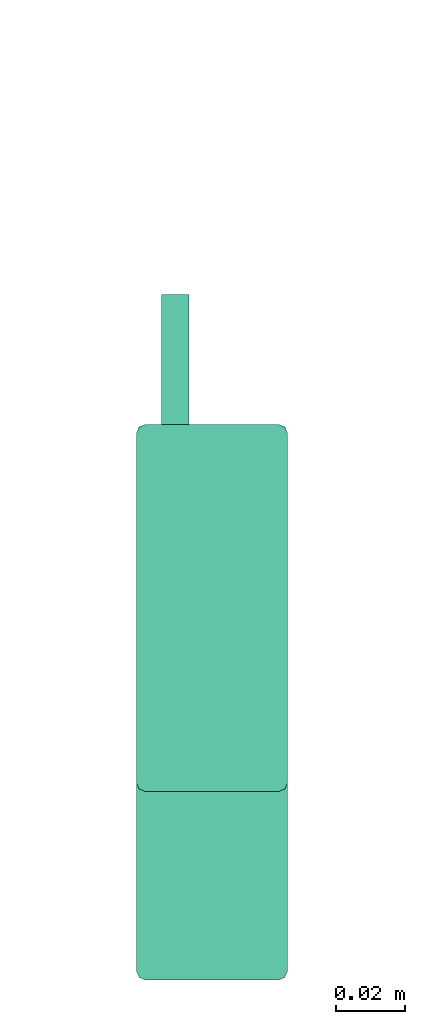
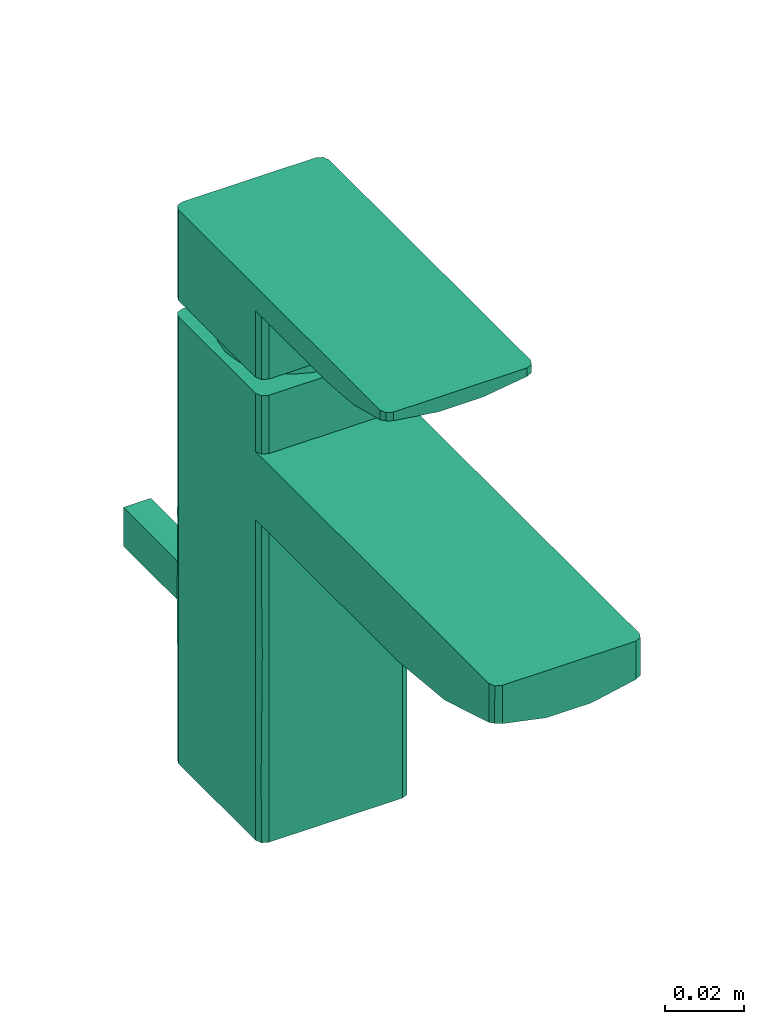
# One storey, part 2 of 2: 1 flow terminal.
"""IFC2X3 building model written with IfcOpenShell, lengths in millimetres."""

from ifc_helpers import new_model, entity, si_unit, converted_unit, derived_unit, direction, frame, origin, place, context, subcontext, project, spatial, faceted_brep, source, transform, mapped, material, type_object, type_shapes, element, save


model = new_model("IFC2X3")

# Units and contexts
model_context = context("Model", 3, precision=0.01, world=origin(), true_north=direction((6.12303176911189e-17, 1.0)))
body_context = subcontext(model_context, "Body", "Model", "MODEL_VIEW")
ifc_project = project(units=[si_unit("LENGTHUNIT", "METRE", prefix="MILLI"), si_unit("AREAUNIT", "SQUARE_METRE"), si_unit("VOLUMEUNIT", "CUBIC_METRE"), converted_unit("PLANEANGLEUNIT", "DEGREE", entity("IfcRatioMeasure", 0.0174532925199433), si_unit("PLANEANGLEUNIT", "RADIAN"), dimensions=[0, 0, 0, 0, 0, 0, 0]), si_unit("MASSUNIT", "GRAM", prefix="KILO"), derived_unit("MASSDENSITYUNIT", [(si_unit("MASSUNIT", "GRAM", prefix="KILO"), 1), (si_unit("LENGTHUNIT", "METRE"), -3)]), derived_unit("MOMENTOFINERTIAUNIT", [(si_unit("LENGTHUNIT", "METRE"), 4)]), si_unit("TIMEUNIT", "SECOND"), si_unit("FREQUENCYUNIT", "HERTZ"), si_unit("THERMODYNAMICTEMPERATUREUNIT", "DEGREE_CELSIUS"), derived_unit("THERMALTRANSMITTANCEUNIT", [(si_unit("MASSUNIT", "GRAM", prefix="KILO"), 1), (si_unit("THERMODYNAMICTEMPERATUREUNIT", "KELVIN"), -1), (si_unit("TIMEUNIT", "SECOND"), -3)]), derived_unit("VOLUMETRICFLOWRATEUNIT", [(si_unit("LENGTHUNIT", "METRE"), 3), (si_unit("TIMEUNIT", "SECOND"), -1)]), si_unit("ELECTRICCURRENTUNIT", "AMPERE"), si_unit("ELECTRICVOLTAGEUNIT", "VOLT"), si_unit("POWERUNIT", "WATT"), si_unit("FORCEUNIT", "NEWTON", prefix="KILO"), si_unit("ILLUMINANCEUNIT", "LUX"), si_unit("LUMINOUSFLUXUNIT", "LUMEN"), si_unit("LUMINOUSINTENSITYUNIT", "CANDELA"), derived_unit("USERDEFINED", [(si_unit("MASSUNIT", "GRAM", prefix="KILO"), -1), (si_unit("LENGTHUNIT", "METRE"), -2), (si_unit("TIMEUNIT", "SECOND"), 3), (si_unit("LUMINOUSFLUXUNIT", "LUMEN"), 1)]), derived_unit("LINEARVELOCITYUNIT", [(si_unit("LENGTHUNIT", "METRE"), 1), (si_unit("TIMEUNIT", "SECOND"), -1)]), si_unit("PRESSUREUNIT", "PASCAL"), derived_unit("USERDEFINED", [(si_unit("LENGTHUNIT", "METRE"), -2), (si_unit("MASSUNIT", "GRAM", prefix="KILO"), 1), (si_unit("TIMEUNIT", "SECOND"), -2)]), derived_unit("LINEARFORCEUNIT", [(si_unit("MASSUNIT", "GRAM", prefix="KILO"), 1), (si_unit("LENGTHUNIT", "METRE"), 1), (si_unit("TIMEUNIT", "SECOND"), -2), (si_unit("LENGTHUNIT", "METRE"), -1)]), derived_unit("PLANARFORCEUNIT", [(si_unit("MASSUNIT", "GRAM", prefix="KILO"), 1), (si_unit("LENGTHUNIT", "METRE"), 1), (si_unit("TIMEUNIT", "SECOND"), -2), (si_unit("LENGTHUNIT", "METRE"), -2)])], contexts=[model_context])

# Site, building, storey
site_placement = place(None, origin())
site = spatial("IfcSite", under=ifc_project, at=site_placement, Name="Default", CompositionType="ELEMENT")
building_placement = place(site_placement, origin())
building = spatial("IfcBuilding", under=site, at=building_placement, CompositionType="ELEMENT")
storey_placement = place(building_placement, origin())
storey = spatial("IfcBuildingStorey", under=building, at=storey_placement, Name="Level 1", CompositionType="ELEMENT", Elevation=0.0)

# Flow terminal
ifc_material = material(Name="Black")
distribution_element_type = type_object("IfcDistributionElementType", Name="FFAS1301-101440BT0_REVIT:EasySET Exposed Auto T Shower_MB", material=ifc_material)
shared_shape = source(origin(), body_context, "Body", "Brep", [
    faceted_brep([(21.2484251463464, -21.2868994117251, 98.7558813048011), (19.4999999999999, -22.0, 98.2239049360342), (21.3461670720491, -21.1857245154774, 78.2967388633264), (22.0, -19.5, 13.8021741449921), (22.0, -19.5, 27.6043482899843), (21.2677669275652, -21.2677669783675, 20.7032614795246), (19.4999999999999, -22.0, 76.7163009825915), (21.2677669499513, -21.2677669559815, 38.2956879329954), (22.0, -19.5, 71.3956517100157), (21.3361299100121, -21.1966516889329, 62.0904782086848), (19.4999999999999, -22.0, 55.2086959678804), (19.4999999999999, -22.0, 41.4065222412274), (19.4999999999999, -22.0, 27.6043474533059), (19.4999999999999, -22.0, 13.802173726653), (19.4999999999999, -22.0, 0.0), (21.2677669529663, -21.2677669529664, 0.0), (19.5, -22.0, 138.0), (19.4999999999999, -22.0, 120.0), (21.2677669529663, -21.2677669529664, 120.0), (21.2677669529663, -21.2677669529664, 138.0), (21.2677669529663, -21.2677669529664, 143.0), (19.4999999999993, -22.0, 162.921385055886), (19.5, -22.0, 143.0), (22.0, -19.5, 85.1978258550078), (22.0, -19.5, 0.0), (22.0, -19.5, 49.4999992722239), (22.0, -19.5, 120.0), (22.0, -19.5, 138.0), (22.0, -19.5, 99.0), (6.57743038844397, -22.0, 95.7626945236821), (-6.57743038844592, -22.0, 95.7626945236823), (-19.5, -22.0, 98.2239049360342), (-19.5, -22.0, 84.4217309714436), (-19.5, -22.0, 70.6195564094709), (-19.5, -22.0, 49.1119524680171), (-19.5, -22.0, 36.8339642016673), (-19.5, -22.0, 24.5559759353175), (-19.5, -22.0, 0.0), (-19.5, -22.0, 138.0), (-19.5, -22.0, 120.0), (0.0, -22.0, 160.962760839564), (-19.5000000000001, -22.0, 162.921385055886), (-19.5, -22.0, 143.0), (-21.2677669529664, -21.2677669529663, 0.0), (-21.3250901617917, -21.2085215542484, 20.7032620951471), (-21.2484251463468, -21.2868994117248, 98.7558813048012), (-21.2496983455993, -21.2856527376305, 77.5206438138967), (-21.1055475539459, -21.4163029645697, 58.5102880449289), (-22.0, -19.5, 71.3956512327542), (-22.0, -19.5, 57.5934777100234), (-22.0, -19.5, 13.8021743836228), (-22.0, -19.5, 0.0), (-22.0, -19.5, 138.0), (-22.0, -19.5, 120.0), (-21.2677669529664, -21.2677669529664, 120.0), (-21.2677669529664, -21.2677669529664, 138.0), (-21.2007290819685, -21.3323538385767, 42.9729592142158), (-22.0, -19.5, 27.6043479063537), (-22.0, -19.5, 85.1978256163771), (-22.0, -19.5, 43.7913033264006), (-22.0, -19.5, 99.0), (22.0, -56.0171086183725, 99.0), (22.0, -37.7585543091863, 99.0), (22.0, -28.6292316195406, 99.0), (22.0, -24.0646158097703, 99.0), (-22.0, -37.7585315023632, 99.0), (-22.0, -56.0171095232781, 99.0), (-22.0, -24.0646328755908, 99.0), (-7.44565170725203, -92.0, 95.8501010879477), (-22.0, -92.0, 99.0), (7.4456517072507, -92.0, 95.8501010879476), (-22.0, -28.6292657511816, 99.0), (22.0, -92.0, 99.0), (-6.47819386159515, -113.347478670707, 97.6132068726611), (-4.80963952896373, -111.411871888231, 97.1525244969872), (-2.55855296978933, -110.149892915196, 96.8385292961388), (-22.0, -115.185414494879, 101.257316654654), (0.0, -109.712505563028, 96.7271891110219), (-7.36528992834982, -118.275588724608, 98.672408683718), (-7.36649669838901, -115.732154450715, 98.1460443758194), (-19.5000000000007, -140.0, 108.15399342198), (2.55855296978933, -110.149892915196, 96.8385292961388), (22.0, -115.185414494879, 101.257316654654), (4.80963952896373, -111.411871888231, 97.1525244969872), (6.47819386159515, -113.347478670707, 97.6132068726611), (7.36649669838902, -115.732154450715, 98.1460443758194), (7.36528992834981, -118.275588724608, 98.672408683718), (-6.58448876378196, -140.0, 105.478393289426), (-6.47617672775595, -120.674281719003, 99.1296249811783), (-4.80602874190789, -122.635875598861, 99.4756849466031), (-2.55792381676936, -123.918316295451, 99.6885992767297), (0.0, -124.364630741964, 99.7602539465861), (-21.2806853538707, -139.254753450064, 108.424116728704), (-22.0, -137.500000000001, 107.94448328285), (6.60304870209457, -140.0, 105.480299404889), (2.55792381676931, -123.918316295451, 99.6885992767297), (4.80602874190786, -122.635875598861, 99.475684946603), (19.5, -140.0, 108.15399342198), (6.47617672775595, -120.674281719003, 99.1296249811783), (22.0, -137.5, 107.94448328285), (21.2816508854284, -139.253773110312, 108.424033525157), (-22.0, -137.5, 120.0), (-21.2677669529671, -139.267766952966, 120.0), (-19.5000000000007, -140.0, 120.0), (19.5, -140.0, 120.0), (21.2677669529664, -139.267766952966, 120.0), (22.0, -137.5, 120.0), (-22.0, 19.5, 138.0), (-22.0, 19.5, 124.19782548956), (-22.0, 19.5, 103.499999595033), (-22.0, 19.5, 86.2499997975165), (-22.0, 19.5, 69.0), (-22.0, 19.5, 51.7500002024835), (-22.0, 19.5, 34.5000004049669), (-22.0, 19.5, 13.8021745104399), (-22.0, 19.5, 0.0), (-22.0, -82.5, 171.0), (-22.0, 19.5, 171.0), (-22.0, 19.5, 163.462760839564), (-22.0, 19.5, 143.0), (-22.0, -19.5, 143.0), (-22.0, -19.5, 163.462760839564), (-22.0, -20.8505832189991, 163.462760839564), (-22.0, -22.2011664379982, 163.462760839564), (-22.0, -24.9023328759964, 163.462760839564), (-22.0, -30.3046657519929, 163.462760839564), (-22.0, -41.1093315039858, 163.462760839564), (-22.0, -55.7774207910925, 163.462760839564), (-22.0, -69.3306105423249, 164.607182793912), (-22.0, -82.5, 168.008040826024), (22.0, 19.5, 0.0), (22.0, 19.5, 13.8021736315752), (22.0, 19.5, 27.6043472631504), (22.0, 19.5, 41.3956514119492), (22.0, 19.5, 62.0934784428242), (22.0, 19.5, 82.7913028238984), (22.0, 19.5, 96.5934764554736), (22.0, 19.5, 110.39565273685), (22.0, 19.5, 124.197826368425), (22.0, 19.5, 138.0), (22.0, -82.5, 171.0), (22.0, -82.5, 168.008040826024), (22.0, -69.3306105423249, 164.607182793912), (22.0, -55.7774207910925, 163.462760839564), (22.0, -41.1093311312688, 163.462760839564), (22.0, -30.3046655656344, 163.462760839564), (22.0, -24.9023327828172, 163.462760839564), (22.0, -22.2011663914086, 163.462760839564), (22.0, -20.8505831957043, 163.462760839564), (22.0, -19.5, 163.462760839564), (22.0, -19.5, 143.0), (22.0, 19.5, 143.0), (22.0, 19.4999999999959, 163.462760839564), (22.0, 19.4999999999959, 171.0), (21.2677669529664, 21.2677669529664, 138.0), (19.5, 22.0, 138.0), (13.7885822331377, 13.7885822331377, 138.0), (9.75000000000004, 16.8874953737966, 138.0), (5.04697137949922, 18.8355536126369, 138.0), (0.0, 19.5000000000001, 138.0), (-19.5, 22.0, 138.0), (-5.04697137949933, 18.8355536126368, 138.0), (-9.7500000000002, 16.8874953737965, 138.0), (-13.7885822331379, 13.7885822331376, 138.0), (-21.2677669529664, 21.2677669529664, 138.0), (-16.8874953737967, 9.74999999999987, 138.0), (-18.8355536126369, 5.04697137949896, 138.0), (-19.5, 0.0, 138.0), (-18.8355536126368, -5.04697137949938, 138.0), (-16.8874953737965, -9.75000000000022, 138.0), (-13.7885822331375, -13.7885822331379, 138.0), (-9.7499999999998, -16.8874953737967, 138.0), (-5.04697137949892, -18.8355536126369, 138.0), (0.0, -19.5, 138.0), (5.04697137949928, -18.8355536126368, 138.0), (9.75000000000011, -16.8874953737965, 138.0), (13.7885822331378, -13.7885822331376, 138.0), (19.5000000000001, 0.0, 138.0), (18.8355536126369, -5.0469713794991, 138.0), (16.8874953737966, -9.74999999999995, 138.0), (16.8874953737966, 9.75000000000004, 138.0), (18.8355536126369, 5.04697137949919, 138.0), (-21.2677669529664, 21.2677669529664, 0.0), (-19.5, 22.0, 0.0), (19.5, 22.0, 0.0), (21.2677669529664, 21.2677669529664, 0.0), (-6.65799145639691, 22.0, 51.9931021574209), (19.5, 22.0, 124.197825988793), (19.5, 22.0, 103.499999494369), (19.5, 22.0, 86.2499982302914), (19.5, 22.0, 68.9999989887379), (19.5, 22.0, 51.7499997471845), (19.5, 22.0, 34.500000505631), (19.5, 22.0, 13.8021740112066), (-6.65799145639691, 22.0, 39.9931021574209), (-14.6579914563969, 22.0, 39.9931021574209), (-14.6579914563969, 22.0, 51.9931021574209), (-19.5, 22.0, 13.8021738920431), (-19.5, 22.0, 27.6043482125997), (-19.5, 22.0, 41.3956520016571), (-19.5, 22.0, 62.0934777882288), (-19.5, 22.0, 82.7913035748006), (-19.5, 22.0, 96.5934778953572), (-19.5, 22.0, 110.3956517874), (-19.5, 22.0, 124.197825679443), (-19.5, 22.0, 162.921385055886), (-19.5, 22.0, 171.0), (19.5, 22.0, 171.0), (19.5000000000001, 22.0, 162.921385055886), (19.5, 22.0, 143.0), (-19.5, 22.0, 143.0), (-21.2677669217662, 21.2677669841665, 20.7032627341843), (-21.3900692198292, 21.1363490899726, 43.125002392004), (-21.2677669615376, 21.2677669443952, 117.296739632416), (-21.3292588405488, 21.2040575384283, 62.9976828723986), (-21.2677669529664, 21.2677669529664, 171.0), (-21.3505236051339, 21.1809409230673, 77.6250015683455), (-21.145426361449, 21.382172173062, 102.117550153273), (-21.2677669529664, 21.2677669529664, 143.0), (-21.2677669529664, -21.2677669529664, 143.0), (21.2677669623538, 21.2677669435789, 117.296739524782), (21.2677669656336, 21.2677669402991, 20.7032615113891), (21.2677669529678, 21.2677669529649, 171.0), (21.1363491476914, 21.3900691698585, 43.1250005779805), (21.2040575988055, 21.3292587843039, 62.9976815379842), (21.1809409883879, 21.3505235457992, 77.6250005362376), (21.3821722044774, 21.1454263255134, 102.117549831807), (21.2677669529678, 21.2677669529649, 143.0), (0.0, -117.318751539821, 97.0301139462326), (0.0, -124.606495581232, 98.7126222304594), (-6.47738647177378, -120.962623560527, 97.871368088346), (-6.47738647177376, -113.674879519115, 96.1888598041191), (0.0, -110.031007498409, 95.3476056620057), (6.47738647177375, -120.962623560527, 97.871368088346), (6.47738647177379, -113.674879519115, 96.1888598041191), (12.318684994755, 12.3186849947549, 143.0), (15.0872462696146, 8.71062569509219, 143.0), (16.8276366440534, 4.5089516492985, 143.0), (17.4212513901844, 0.0, 143.0), (16.8276366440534, -4.50895164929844, 143.0), (15.0872462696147, -8.71062569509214, 143.0), (12.318684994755, -12.3186849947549, 143.0), (8.71062569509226, -15.0872462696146, 143.0), (4.50895164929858, -16.8276366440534, 143.0), (0.0, -17.4212513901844, 143.0), (-4.50895164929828, -16.8276366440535, 143.0), (-8.710625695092, -15.0872462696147, 143.0), (-12.3186849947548, -12.3186849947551, 143.0), (-15.0872462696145, -8.71062569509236, 143.0), (-16.8276366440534, -4.50895164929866, 143.0), (-17.4212513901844, 0.0, 143.0), (-16.8276366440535, 4.5089516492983, 143.0), (-15.0872462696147, 8.71062569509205, 143.0), (-12.3186849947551, 12.3186849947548, 143.0), (0.0, 17.4212513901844, 143.0), (-4.50895164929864, 16.8276366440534, 143.0), (-8.71062569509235, 15.0872462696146, 143.0), (8.71062569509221, 15.0872462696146, 143.0), (4.50895164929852, 16.8276366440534, 143.0), (-21.2586231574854, 21.2768636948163, 163.295069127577), (-21.2579393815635, -21.277540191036, 163.294933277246), (-21.4865459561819, -20.7299334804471, 163.346635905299), (21.2579393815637, -21.2775401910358, 163.294933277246), (21.4865459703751, -20.7299334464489, 163.346635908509), (21.2579344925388, 21.2775450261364, 163.29491635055), (19.5, -85.0, 171.0), (21.2677669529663, -84.2677669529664, 171.0), (-21.2677669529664, -84.2677669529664, 171.0), (-19.5, -85.0, 171.0), (-21.2840980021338, -84.2512836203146, 168.47121602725), (-19.5, -85.0, 168.350013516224), (-6.53688578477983, -85.0, 166.487997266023), (6.55003772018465, -85.0, 166.488936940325), (19.5, -85.0, 168.350013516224), (21.2849373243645, -84.2504281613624, 168.471094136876), (0.0068178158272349, -71.7520730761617, 162.50836299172), (0.0, -55.7774207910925, 160.962760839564), (-11.1949079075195, -72.7383063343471, 163.362206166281), (-12.9793431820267, -55.7774207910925, 162.437686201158), (12.9793430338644, -55.7774207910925, 162.437686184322), (-3.64332454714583, -18.3162287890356, 140.458647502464), (-7.12906184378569, 17.2110771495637, 140.570058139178), (-3.62527419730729, 18.2254836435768, 140.681192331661), (-17.2110773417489, 7.12906142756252, 140.570058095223), (-18.4697609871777, 2.4315901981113, 140.570057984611), (-7.12906182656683, -17.211077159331, 140.570058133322), (-14.7794872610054, -11.3406990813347, 140.570058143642), (-14.7794872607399, 11.3406990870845, 140.57005813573), (-11.3406995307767, 14.779486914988, 140.570058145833), (-17.2110773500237, -7.12906138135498, 140.570058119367), (-18.4697609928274, -2.43159026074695, 140.570057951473), (-11.3406995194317, -14.7794869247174, 140.570058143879), (0.0, -18.6291358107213, 140.570058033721), (0.0, 18.6291358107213, 140.570058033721), (3.64332453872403, 18.3162287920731, 140.458647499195), (11.3406995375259, -14.7794869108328, 140.57005814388), (7.12906186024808, -17.2110771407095, 140.570058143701), (14.7794872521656, -11.3406991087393, 140.570058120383), (7.12906180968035, 17.2110771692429, 140.57005812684), (14.7794872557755, 11.3406990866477, 140.570058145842), (18.469760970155, -2.43159020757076, 140.570058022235), (17.2110773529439, 7.12906135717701, 140.570058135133), (18.4697609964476, 2.43159031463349, 140.570057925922), (11.3406995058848, 14.7794869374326, 140.570058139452), (17.2110773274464, -7.12906149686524, 140.570058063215), (3.62527420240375, -18.2254836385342, 140.681192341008), (-14.6579914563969, 60.0, 39.9931021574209), (-14.6579914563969, 60.0, 51.9931021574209), (-6.65799145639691, 60.0, 51.9931021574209), (-6.65799145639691, 60.0, 39.9931021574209)], [[[0, 1, 2]], [[3, 4, 5]], [[2, 1, 6]], [[5, 4, 7]], [[8, 2, 9]], [[7, 10, 11, 12]], [[13, 14, 15]], [[16, 17, 18, 19]], [[20, 21, 22]], [[0, 2, 23]], [[5, 13, 15]], [[12, 5, 7]], [[6, 9, 2]], [[15, 24, 3]], [[4, 25, 7]], [[18, 26, 27, 19]], [[15, 3, 5]], [[7, 25, 9]], [[23, 2, 8]], [[23, 28, 0]], [[9, 6, 10]], [[7, 9, 10]], [[25, 8, 9]], [[5, 12, 13]], [[29, 30, 31, 32, 33, 34, 35, 36, 37, 14, 13, 12, 11, 10, 6, 1]], [[16, 38, 39, 17]], [[40, 41, 42, 22, 21]], [[43, 37, 44]], [[32, 31, 45]], [[45, 46, 32]], [[44, 37, 36, 35]], [[47, 48, 49]], [[50, 51, 43]], [[52, 53, 54, 55]], [[48, 47, 46]], [[44, 56, 57]], [[35, 34, 56]], [[45, 58, 46]], [[33, 32, 46]], [[57, 50, 44]], [[56, 47, 49]], [[43, 44, 50]], [[35, 56, 44]], [[56, 49, 59, 57]], [[56, 34, 47]], [[34, 33, 47]], [[46, 47, 33]], [[58, 45, 60]], [[58, 48, 46]], [[61, 29, 62]], [[63, 62, 1, 64]], [[65, 30, 66]], [[60, 45, 67]], [[68, 69, 66]], [[66, 30, 68]], [[68, 30, 29, 70]], [[0, 28, 64]], [[31, 67, 45]], [[65, 71, 67, 31]], [[72, 70, 61]], [[65, 31, 30]], [[61, 70, 29]], [[29, 1, 62]], [[1, 0, 64]], [[73, 68, 74]], [[68, 75, 74]], [[76, 69, 68]], [[77, 75, 68]], [[78, 76, 79]], [[68, 73, 79]], [[78, 80, 76]], [[76, 68, 79]], [[70, 81, 77]], [[70, 72, 82]], [[83, 81, 70]], [[68, 70, 77]], [[84, 70, 85]], [[85, 70, 82]], [[85, 82, 86]], [[83, 70, 84]], [[87, 88, 89]], [[87, 90, 91]], [[90, 87, 89]], [[80, 92, 93]], [[80, 88, 87]], [[80, 78, 88]], [[80, 93, 76]], [[94, 87, 91]], [[94, 95, 96]], [[97, 98, 86]], [[98, 94, 96]], [[97, 82, 99]], [[97, 99, 100]], [[94, 98, 97]], [[94, 91, 95]], [[86, 82, 97]], [[54, 53, 101, 102, 103, 104, 105, 106, 26, 18, 17, 39]], [[52, 107, 108, 109, 110, 111, 112, 113, 114, 115, 51, 50, 57, 59, 49, 48, 58, 60, 67, 71, 65, 66, 69, 76, 93, 101, 53]], [[116, 117, 118, 119, 120, 121, 122, 123, 124, 125, 126, 127, 128, 129]], [[101, 93, 92]], [[101, 92, 102]], [[92, 103, 102]], [[103, 92, 80]], [[104, 103, 80, 87, 94, 97]], [[105, 104, 100]], [[100, 104, 97]], [[100, 99, 106]], [[100, 106, 105]], [[26, 106, 99, 82, 72, 61, 62, 63, 64, 28, 23, 8, 25, 4, 3, 24, 130, 131, 132, 133, 134, 135, 136, 137, 138, 139, 27]], [[140, 141, 142, 143, 144, 145, 146, 147, 148, 149, 150, 151, 152, 153]], [[154, 155, 139]], [[139, 155, 156]], [[157, 156, 155]], [[158, 157, 155]], [[159, 158, 155]], [[155, 160, 159]], [[161, 159, 160]], [[162, 161, 160]], [[162, 160, 163]], [[107, 163, 160]], [[160, 164, 107]], [[165, 163, 107]], [[166, 165, 107]], [[166, 107, 167]], [[167, 107, 52]], [[168, 167, 52]], [[169, 168, 52]], [[52, 170, 169]], [[38, 170, 52]], [[38, 52, 55]], [[171, 170, 38]], [[171, 38, 172]], [[173, 172, 38]], [[173, 38, 16]], [[16, 174, 173]], [[175, 174, 16]], [[176, 175, 16]], [[16, 27, 176]], [[16, 19, 27]], [[177, 27, 139]], [[27, 177, 178]], [[178, 179, 27]], [[179, 176, 27]], [[156, 180, 139]], [[180, 181, 139]], [[139, 181, 177]], [[115, 182, 183, 184, 185, 130, 24, 15, 14, 37, 43, 51]], [[155, 186, 160]], [[186, 155, 187]], [[186, 187, 188]], [[186, 188, 189]], [[186, 189, 190]], [[186, 190, 191]], [[186, 191, 192]], [[186, 192, 193]], [[186, 193, 184]], [[184, 194, 186]], [[194, 184, 183]], [[183, 195, 194]], [[195, 183, 196]], [[196, 183, 197]], [[196, 197, 198]], [[196, 198, 199]], [[196, 199, 200]], [[196, 200, 201]], [[196, 201, 202]], [[196, 202, 203]], [[196, 203, 204]], [[196, 204, 160]], [[196, 160, 186]], [[205, 206, 207, 208, 209, 210]], [[198, 211, 212]], [[212, 211, 113]], [[204, 213, 164]], [[200, 212, 214]], [[108, 107, 164]], [[182, 115, 114]], [[215, 118, 117]], [[200, 214, 216]], [[216, 217, 201]], [[182, 211, 197]], [[204, 203, 213]], [[109, 213, 217]], [[211, 182, 114]], [[213, 203, 217]], [[164, 160, 204]], [[197, 183, 182]], [[218, 205, 210]], [[109, 108, 213]], [[164, 213, 108]], [[197, 211, 198]], [[113, 211, 114]], [[217, 203, 202, 201]], [[217, 216, 110]], [[110, 216, 111]], [[110, 109, 217]], [[214, 111, 216]], [[216, 201, 200]], [[212, 113, 112]], [[212, 200, 199, 198]], [[112, 111, 214]], [[214, 212, 112]], [[54, 39, 38, 55]], [[41, 219, 42]], [[138, 137, 220]], [[132, 131, 185, 221]], [[131, 130, 185]], [[154, 139, 138]], [[153, 152, 222]], [[134, 223, 224]], [[134, 224, 225]], [[225, 226, 135]], [[187, 155, 154]], [[185, 184, 193]], [[208, 227, 209]], [[138, 220, 154]], [[188, 220, 226]], [[221, 223, 132]], [[220, 137, 226]], [[188, 187, 220]], [[221, 185, 193, 192]], [[154, 220, 187]], [[221, 192, 223]], [[226, 137, 136, 135]], [[226, 225, 189]], [[189, 225, 190]], [[189, 188, 226]], [[224, 190, 225]], [[225, 135, 134]], [[223, 192, 191]], [[223, 134, 133, 132]], [[191, 190, 224]], [[224, 223, 191]], [[228, 229, 230]], [[230, 231, 228]], [[231, 232, 228]], [[228, 233, 229]], [[232, 234, 228]], [[233, 228, 234]], [[75, 77, 232]], [[75, 232, 231]], [[75, 231, 74]], [[73, 74, 231]], [[79, 73, 231]], [[231, 78, 79]], [[90, 230, 229]], [[90, 229, 91]], [[78, 230, 88]], [[90, 89, 230]], [[230, 89, 88]], [[230, 78, 231]], [[95, 91, 229]], [[95, 229, 233]], [[96, 95, 233]], [[98, 96, 233]], [[233, 86, 98]], [[233, 234, 86]], [[81, 234, 232]], [[81, 232, 77]], [[85, 234, 84]], [[84, 234, 83]], [[234, 81, 83]], [[234, 85, 86]], [[227, 151, 209]], [[209, 151, 235]], [[236, 235, 151]], [[237, 236, 151]], [[238, 237, 151]], [[151, 150, 238]], [[239, 238, 150]], [[240, 239, 150]], [[240, 150, 241]], [[22, 241, 150]], [[150, 20, 22]], [[242, 241, 22]], [[243, 242, 22]], [[243, 22, 244]], [[244, 22, 42]], [[245, 244, 42]], [[246, 245, 42]], [[42, 247, 246]], [[120, 247, 42]], [[120, 42, 219]], [[248, 247, 120]], [[248, 120, 249]], [[250, 249, 120]], [[250, 120, 119]], [[119, 251, 250]], [[252, 251, 119]], [[253, 252, 119]], [[119, 210, 253]], [[119, 218, 210]], [[254, 210, 209]], [[210, 254, 255]], [[255, 256, 210]], [[256, 253, 210]], [[235, 257, 209]], [[257, 258, 209]], [[209, 258, 254]], [[259, 205, 218]], [[119, 118, 259]], [[119, 259, 218]], [[120, 260, 261, 121]], [[260, 120, 219]], [[219, 41, 260]], [[262, 21, 20]], [[150, 149, 263, 262]], [[150, 262, 20]], [[264, 152, 151]], [[264, 151, 227]], [[227, 208, 264]], [[265, 266, 140, 153, 222, 207, 206, 215, 117, 116, 267, 268]], [[206, 205, 259]], [[206, 259, 215]], [[118, 215, 259]], [[116, 129, 269]], [[116, 269, 267]], [[269, 268, 267]], [[268, 269, 270]], [[265, 268, 270, 271, 272, 273]], [[266, 265, 274]], [[274, 265, 273]], [[274, 141, 140]], [[274, 140, 266]], [[222, 152, 264]], [[264, 208, 207]], [[264, 207, 222]], [[142, 273, 272]], [[275, 272, 271]], [[142, 272, 275]], [[129, 270, 269]], [[276, 277, 278]], [[271, 270, 277]], [[127, 278, 128]], [[273, 141, 274]], [[276, 279, 275]], [[279, 143, 142]], [[142, 275, 279]], [[129, 277, 270]], [[277, 128, 278]], [[277, 275, 271]], [[129, 128, 277]], [[142, 141, 273]], [[276, 275, 277]], [[40, 21, 145]], [[144, 143, 279, 276, 40, 145]], [[125, 41, 40]], [[262, 147, 21]], [[125, 124, 123, 41]], [[263, 149, 148, 147, 262]], [[126, 125, 40, 276, 278, 127]], [[261, 260, 123, 122, 121]], [[146, 145, 21, 147]], [[41, 123, 260]], [[244, 245, 280]], [[281, 255, 282]], [[283, 284, 251]], [[245, 285, 280]], [[247, 248, 286]], [[287, 288, 163]], [[285, 245, 246]], [[289, 290, 168]], [[247, 291, 246]], [[287, 253, 288]], [[289, 248, 249]], [[280, 173, 292]], [[172, 280, 285]], [[250, 290, 249]], [[283, 287, 165]], [[291, 285, 246]], [[167, 168, 290]], [[286, 291, 247]], [[291, 171, 285]], [[290, 289, 249]], [[286, 289, 169]], [[170, 291, 286]], [[289, 286, 248]], [[284, 290, 250]], [[167, 284, 166]], [[282, 293, 159]], [[252, 283, 251]], [[287, 252, 253]], [[284, 283, 166]], [[254, 293, 282]], [[284, 167, 290]], [[288, 256, 281]], [[288, 253, 256]], [[254, 282, 255]], [[281, 256, 255]], [[172, 285, 171]], [[283, 165, 166]], [[287, 163, 165]], [[171, 291, 170]], [[161, 162, 281]], [[163, 288, 162]], [[283, 252, 287]], [[161, 282, 159]], [[173, 280, 172]], [[169, 289, 168]], [[161, 281, 282]], [[170, 286, 169]], [[280, 292, 244]], [[284, 250, 251]], [[288, 281, 162]], [[254, 258, 294]], [[295, 242, 296]], [[297, 241, 295]], [[258, 298, 294]], [[299, 235, 236]], [[177, 300, 178]], [[298, 258, 257]], [[301, 302, 181]], [[257, 235, 303]], [[295, 296, 175]], [[301, 236, 237]], [[294, 159, 293]], [[158, 294, 298]], [[304, 240, 297]], [[304, 297, 179]], [[158, 298, 157]], [[177, 181, 302]], [[157, 303, 156]], [[303, 157, 298]], [[180, 301, 181]], [[299, 301, 180]], [[156, 303, 299]], [[156, 299, 180]], [[300, 302, 238]], [[300, 238, 239]], [[305, 292, 173]], [[240, 304, 239]], [[297, 240, 241]], [[300, 304, 178]], [[296, 242, 243]], [[304, 300, 239]], [[296, 243, 305]], [[295, 241, 242]], [[244, 305, 243]], [[305, 244, 292]], [[303, 298, 257]], [[304, 179, 178]], [[297, 176, 179]], [[299, 303, 235]], [[174, 175, 296]], [[176, 295, 175]], [[238, 302, 237]], [[174, 305, 173]], [[159, 294, 158]], [[302, 301, 237]], [[174, 296, 305]], [[301, 299, 236]], [[294, 293, 254]], [[177, 302, 300]], [[297, 295, 176]], [[306, 307, 308, 309]], [[196, 186, 308, 307]], [[195, 196, 307, 306]], [[194, 195, 306, 309]], [[186, 194, 309, 308]]]),
])
type_shapes(distribution_element_type, [shared_shape])
flow_terminal_placement = place(storey_placement, frame((-5507.79293155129, -65.166170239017, 0.0)))
element("IfcFlowTerminal", 1, at=flow_terminal_placement, inside=storey, type_object=distribution_element_type, material=ifc_material, Name="FFAS1301-101440BT0_REVIT:EasySET Exposed Auto T Shower_MB", ObjectType="FFAS1301-101440BT0_REVIT:EasySET Exposed Auto T Shower_MB", context=body_context, shape_type="MappedRepresentation", body=[
    mapped(shared_shape, transform((0.0, 0.0, 0.0), scale=1.0)),
])

save(model, "model.ifc")
